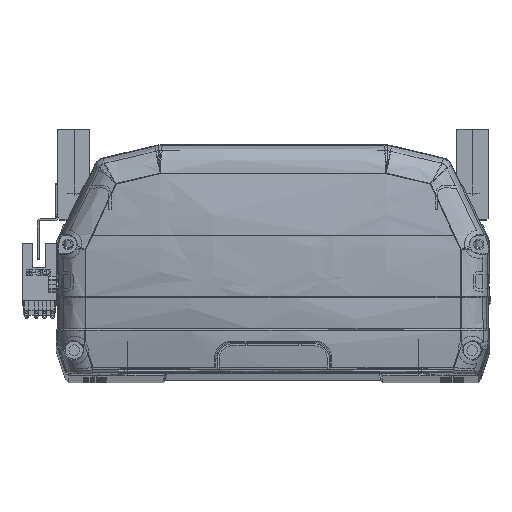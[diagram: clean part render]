
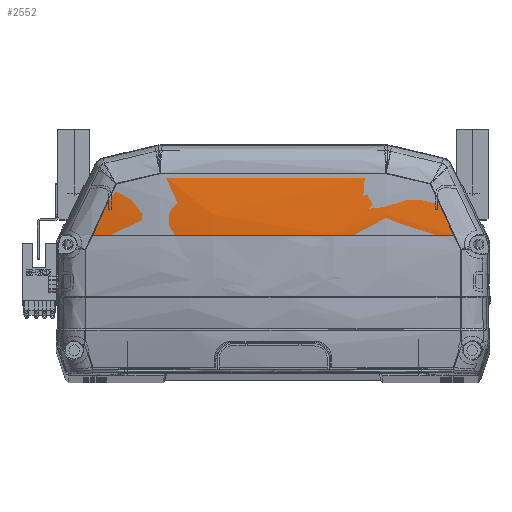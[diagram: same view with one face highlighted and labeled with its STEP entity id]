
A CAD part, top view. The second image highlights one B-rep face of the part: STEP entity #2552.
In plain terms, the highlighted toroidal (fillet/blend) face has major radius 312.5 mm and minor radius 572.4 mm.
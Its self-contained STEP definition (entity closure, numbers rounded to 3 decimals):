
#612 = CARTESIAN_POINT ( 'NONE',  ( 71.027, 55.096, -4.524 ) ) ;
#1322 = EDGE_CURVE ( 'NONE', #16663, #29239, #30863, .T. ) ;
#2487 = CARTESIAN_POINT ( 'NONE',  ( 0., 55.096, -572.5 ) ) ;
#2552 = ADVANCED_FACE ( 'NONE', ( #7581 ), #23252, .T. ) ;
#3457 = CIRCLE ( 'NONE', #11464, 572.4 ) ;
#3615 = EDGE_LOOP ( 'NONE', ( #39856, #31896, #34398, #30832, #5046, #31942 ) ) ;
#4313 = CARTESIAN_POINT ( 'NONE',  ( 61.718, 75.278, -4.232 ) ) ;
#5046 = ORIENTED_EDGE ( 'NONE', *, *, #6177, .F. ) ;
#5566 = CARTESIAN_POINT ( 'NONE',  ( -55.929, 76.661, -3.711 ) ) ;
#5691 = CARTESIAN_POINT ( 'NONE',  ( -29.579, 79.39, -1.814 ) ) ;
#5984 = CARTESIAN_POINT ( 'NONE',  ( -61.718, 75.278, -4.232 ) ) ;
#6110 = CARTESIAN_POINT ( 'NONE',  ( -14.788, 79.361, -1.235 ) ) ;
#6177 = EDGE_CURVE ( 'NONE', #29239, #30021, #28238, .T. ) ;
#7581 = FACE_OUTER_BOUND ( 'NONE', #3615, .T. ) ;
#9170 = DIRECTION ( 'NONE',  ( 0., 1., 0. ) ) ;
#10836 = DIRECTION ( 'NONE',  ( 1., 0., 0. ) ) ;
#11218 = CARTESIAN_POINT ( 'NONE',  ( -44.331, 79.443, -2.97 ) ) ;
#11464 = AXIS2_PLACEMENT_3D ( 'NONE', #2487, #9170, #22025 ) ;
#14080 = CARTESIAN_POINT ( 'NONE',  ( -71.027, 55.096, -4.524 ) ) ;
#14752 = CARTESIAN_POINT ( 'NONE',  ( 50.132, 78.049, -3.29 ) ) ;
#15429 = CARTESIAN_POINT ( 'NONE',  ( 71.027, 55.096, -4.524 ) ) ;
#15566 = CARTESIAN_POINT ( 'NONE',  ( 64.811, 68.545, -4.037 ) ) ;
#16663 = VERTEX_POINT ( 'NONE', #34239 ) ;
#17329 = CARTESIAN_POINT ( 'NONE',  ( 44.331, 79.443, -2.97 ) ) ;
#17376 = CARTESIAN_POINT ( 'NONE',  ( -69.472, 58.454, -4.329 ) ) ;
#18090 = CARTESIAN_POINT ( 'NONE',  ( -61.718, 75.278, -4.232 ) ) ;
#18829 = CARTESIAN_POINT ( 'NONE',  ( -44.331, 79.443, -2.97 ) ) ;
#19105 = CARTESIAN_POINT ( 'NONE',  ( 44.331, 79.443, -2.97 ) ) ;
#19405 = EDGE_CURVE ( 'NONE', #30021, #36897, #34749, .T. ) ;
#21078 = CARTESIAN_POINT ( 'NONE',  ( 55.929, 76.66, -3.711 ) ) ;
#22025 = DIRECTION ( 'NONE',  ( 0., 0., 1. ) ) ;
#22162 = CARTESIAN_POINT ( 'NONE',  ( -50.132, 78.049, -3.29 ) ) ;
#22686 = B_SPLINE_CURVE_WITH_KNOTS ( 'NONE', 3,
 ( #31846, #15566, #31701, #15429 ),
 .UNSPECIFIED., .F., .F.,
 ( 4, 4 ),
 ( 0., 0.022 ),
 .UNSPECIFIED. ) ;
#23252 = TOROIDAL_SURFACE ( 'NONE', #31778, -312.5, 572.4 ) ;
#23647 = VERTEX_POINT ( 'NONE', #612 ) ;
#24041 = CARTESIAN_POINT ( 'NONE',  ( -64.813, 68.545, -4.11 ) ) ;
#25673 = CARTESIAN_POINT ( 'NONE',  ( 29.579, 79.389, -1.814 ) ) ;
#27446 = CARTESIAN_POINT ( 'NONE',  ( -63.264, 71.911, -4.135 ) ) ;
#28238 = B_SPLINE_CURVE_WITH_KNOTS ( 'NONE', 3,
 ( #18829, #5691, #6110, #39043, #25673, #19105 ),
 .UNSPECIFIED., .F., .F.,
 ( 4, 2, 4 ),
 ( 0., 0.044, 0.089 ),
 .UNSPECIFIED. ) ;
#29068 = CARTESIAN_POINT ( 'NONE',  ( -44.331, 79.443, -2.97 ) ) ;
#29239 = VERTEX_POINT ( 'NONE', #11218 ) ;
#29871 = EDGE_CURVE ( 'NONE', #40777, #16663, #36402, .T. ) ;
#30021 = VERTEX_POINT ( 'NONE', #31350 ) ;
#30715 = CARTESIAN_POINT ( 'NONE',  ( 0., 55.096, -260. ) ) ;
#30734 = EDGE_CURVE ( 'NONE', #36897, #23647, #22686, .T. ) ;
#30832 = ORIENTED_EDGE ( 'NONE', *, *, #19405, .F. ) ;
#30863 = B_SPLINE_CURVE_WITH_KNOTS ( 'NONE', 3,
 ( #5984, #5566, #22162, #29068 ),
 .UNSPECIFIED., .F., .F.,
 ( 4, 4 ),
 ( 0., 0.018 ),
 .UNSPECIFIED. ) ;
#31135 = EDGE_CURVE ( 'NONE', #40777, #23647, #3457, .T. ) ;
#31350 = CARTESIAN_POINT ( 'NONE',  ( 44.331, 79.443, -2.97 ) ) ;
#31701 = CARTESIAN_POINT ( 'NONE',  ( 67.917, 61.809, -4.135 ) ) ;
#31778 = AXIS2_PLACEMENT_3D ( 'NONE', #30715, #10836, #40028 ) ;
#31846 = CARTESIAN_POINT ( 'NONE',  ( 61.718, 75.278, -4.232 ) ) ;
#31896 = ORIENTED_EDGE ( 'NONE', *, *, #31135, .T. ) ;
#31942 = ORIENTED_EDGE ( 'NONE', *, *, #1322, .F. ) ;
#34130 = CARTESIAN_POINT ( 'NONE',  ( -67.917, 61.816, -4.208 ) ) ;
#34239 = CARTESIAN_POINT ( 'NONE',  ( -61.718, 75.278, -4.232 ) ) ;
#34398 = ORIENTED_EDGE ( 'NONE', *, *, #30734, .F. ) ;
#34749 = B_SPLINE_CURVE_WITH_KNOTS ( 'NONE', 3,
 ( #17329, #14752, #21078, #4313 ),
 .UNSPECIFIED., .F., .F.,
 ( 4, 4 ),
 ( 0., 0.018 ),
 .UNSPECIFIED. ) ;
#36018 = CARTESIAN_POINT ( 'NONE',  ( 61.718, 75.278, -4.232 ) ) ;
#36402 = B_SPLINE_CURVE_WITH_KNOTS ( 'NONE', 3,
 ( #14080, #17376, #34130, #24041, #27446, #18090 ),
 .UNSPECIFIED., .F., .F.,
 ( 4, 2, 4 ),
 ( 0.006, 0.017, 0.029 ),
 .UNSPECIFIED. ) ;
#36897 = VERTEX_POINT ( 'NONE', #36018 ) ;
#39043 = CARTESIAN_POINT ( 'NONE',  ( 14.805, 79.361, -1.235 ) ) ;
#39856 = ORIENTED_EDGE ( 'NONE', *, *, #29871, .F. ) ;
#39918 = CARTESIAN_POINT ( 'NONE',  ( -71.027, 55.096, -4.524 ) ) ;
#40028 = DIRECTION ( 'NONE',  ( 0., 0., -1. ) ) ;
#40777 = VERTEX_POINT ( 'NONE', #39918 ) ;
